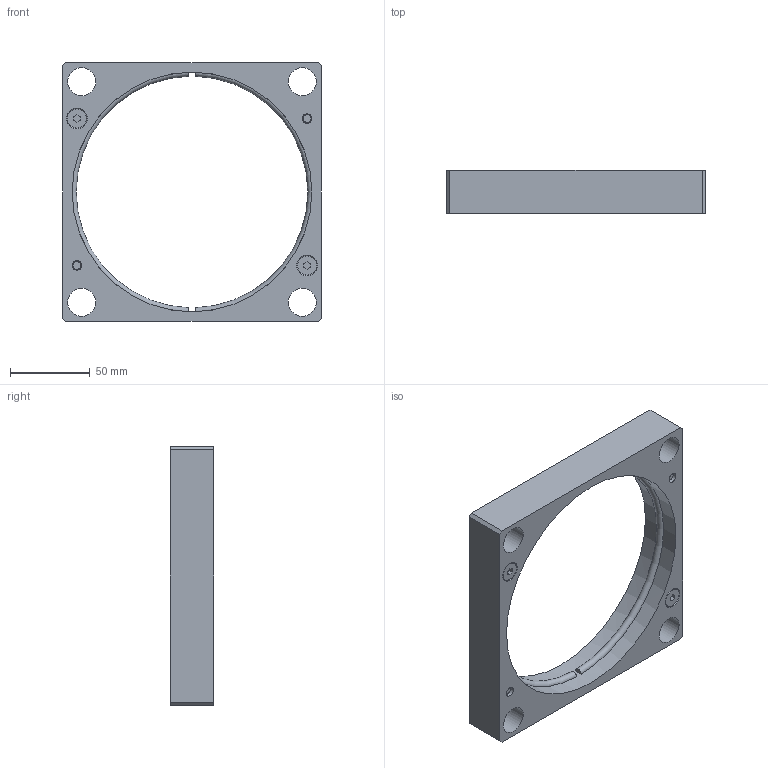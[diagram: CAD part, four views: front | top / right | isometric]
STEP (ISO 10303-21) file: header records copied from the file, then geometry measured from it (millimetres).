
FILE_DESCRIPTION(/* description */ (''),/* implementation_level */ '2;1');
FILE_NAME(/* name */ 'C:\Users\Jefferson\Desktop\Biblioteca Pro Nitro 2024 - Inventor\Flanges\PNB-65-XXX\PNB-65-150.stp',/* time_stamp */ '2024-12-30T16:43:38-03:00',/* author */ ('Jefferson'),/* organization */ (''),/* preprocessor_version */ 'ST-DEVELOPER v19',/* originating_system */ 'Autodesk Inventor 2023',/* authorisation */ '');
FILE_SCHEMA (('AUTOMOTIVE_DESIGN { 1 0 10303 214 3 1 1 }'));
Length unit declared in the file: millimetre
Products named in the file (3): PNB-65-150; DNB-0016-150; DIN 7991 - M6x25
Assembly tree (5 placements, depth 2):
  PNB-65-150
    DNB-0016-150
    DIN 7991 - M6x25  x4
Bounding box: 162 x 27 x 162 mm (x, y, z)
Volume: 209281.1 mm3; surface area: 57098 mm2
Topology: 5 solids, 5 shells, 242 faces, 630 edges, 418 vertices
Faces by surface type: plane 127, bspline 80, cylinder 17, cone 12, torus 6
Full cylindrical faces by diameter (mm): 6 x8, 12 x4, 17.5 x4, 150 x1
Entity records: 6869 total; most frequent: CARTESIAN_POINT 2205, ORIENTED_EDGE 1068, DIRECTION 666, EDGE_CURVE 534, VERTEX_POINT 355, LINE 330, VECTOR 330, EDGE_LOOP 235
